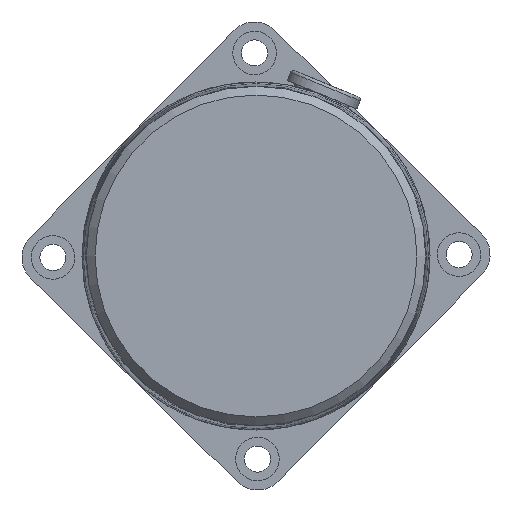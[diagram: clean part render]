
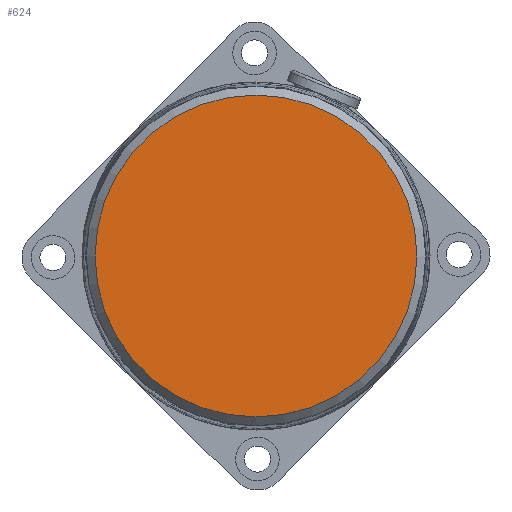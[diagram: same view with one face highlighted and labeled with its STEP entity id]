
A CAD part, left-side view. The second image highlights one B-rep face of the part: STEP entity #624.
In plain terms, the highlighted planar face has unit normal (-1, 0, 0).
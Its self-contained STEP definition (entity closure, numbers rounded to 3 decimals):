
#604=CARTESIAN_POINT('',(0.,27.75,0.0));
#605=VERTEX_POINT('',#604);
#606=CARTESIAN_POINT('',(0.,0.0,0.0));
#607=DIRECTION('',(1.0,0.0,0.0));
#608=DIRECTION('',(0.0,1.0,0.0));
#609=AXIS2_PLACEMENT_3D('',#606,#607,#608);
#610=CIRCLE('',#609,27.75);
#611=EDGE_CURVE('',#605,#605,#610,.T.);
#616=CARTESIAN_POINT('',(0.,13.875,0.0));
#617=DIRECTION('',(-1.0,0.0,0.0));
#618=DIRECTION('',(0.0,0.0,1.0));
#619=AXIS2_PLACEMENT_3D('',#616,#617,#618);
#620=PLANE('',#619);
#621=ORIENTED_EDGE('',*,*,#611,.F.);
#622=EDGE_LOOP('',(#621));
#623=FACE_OUTER_BOUND('',#622,.T.);
#624=ADVANCED_FACE('',(#623),#620,.T.);
